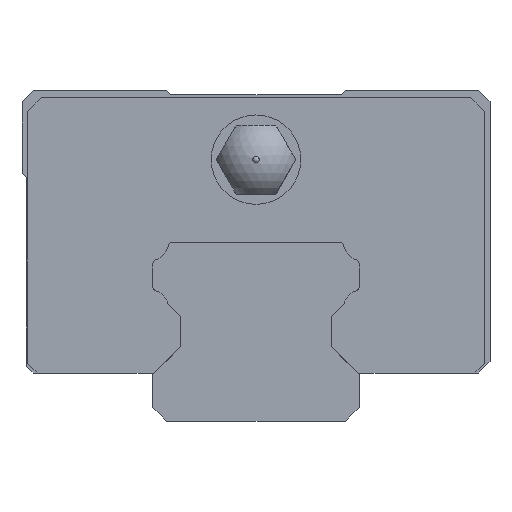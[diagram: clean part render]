
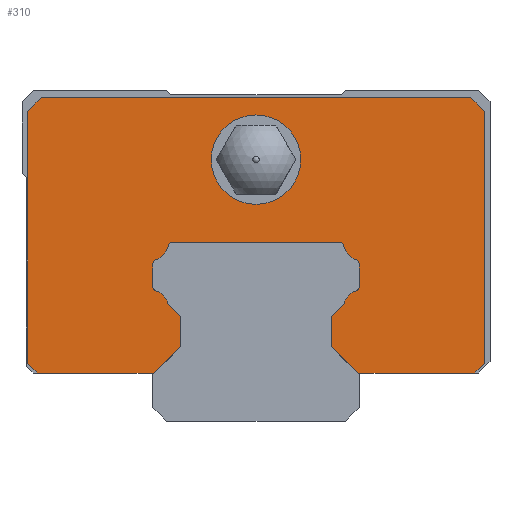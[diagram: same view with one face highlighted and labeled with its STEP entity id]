
A CAD part, front view. The second image highlights one B-rep face of the part: STEP entity #310.
In plain terms, the highlighted planar face has unit normal (0, -1, 0).
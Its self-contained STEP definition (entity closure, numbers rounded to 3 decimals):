
#310=ADVANCED_FACE('',(#613,#614),#615,.T.);
#613=FACE_OUTER_BOUND('',#924,.T.);
#614=FACE_BOUND('',#925,.T.);
#615=PLANE('',#926);
#924=EDGE_LOOP('',(#2049,#2050,#2051,#2052,#2053,#2054,#2055,#2056,#2057,#2058,#2059,#2060,#2061,#2062,#2063,#2064,#2065,#2066,#2067,#2068,#2069,#2070,#2071,#2072,#2073,#2074,#2075,#2076));
#925=EDGE_LOOP('',(#2077,#2078,#2079));
#926=AXIS2_PLACEMENT_3D('',#2080,#2081,#2082);
#2049=ORIENTED_EDGE('',*,*,#2391,.F.);
#2050=ORIENTED_EDGE('',*,*,#2492,.F.);
#2051=ORIENTED_EDGE('',*,*,#2413,.F.);
#2052=ORIENTED_EDGE('',*,*,#2491,.F.);
#2053=ORIENTED_EDGE('',*,*,#2472,.F.);
#2054=ORIENTED_EDGE('',*,*,#2482,.F.);
#2055=ORIENTED_EDGE('',*,*,#2489,.F.);
#2056=ORIENTED_EDGE('',*,*,#2424,.F.);
#2057=ORIENTED_EDGE('',*,*,#2485,.F.);
#2058=ORIENTED_EDGE('',*,*,#2468,.F.);
#2059=ORIENTED_EDGE('',*,*,#2490,.F.);
#2060=ORIENTED_EDGE('',*,*,#2466,.F.);
#2061=ORIENTED_EDGE('',*,*,#2394,.F.);
#2062=ORIENTED_EDGE('',*,*,#2463,.F.);
#2063=ORIENTED_EDGE('',*,*,#2475,.F.);
#2064=ORIENTED_EDGE('',*,*,#2493,.F.);
#2065=ORIENTED_EDGE('',*,*,#2402,.F.);
#2066=ORIENTED_EDGE('',*,*,#2471,.F.);
#2067=ORIENTED_EDGE('',*,*,#2441,.F.);
#2068=ORIENTED_EDGE('',*,*,#2484,.T.);
#2069=ORIENTED_EDGE('',*,*,#2356,.T.);
#2070=ORIENTED_EDGE('',*,*,#2494,.T.);
#2071=ORIENTED_EDGE('',*,*,#2487,.T.);
#2072=ORIENTED_EDGE('',*,*,#2478,.T.);
#2073=ORIENTED_EDGE('',*,*,#2419,.T.);
#2074=ORIENTED_EDGE('',*,*,#2495,.T.);
#2075=ORIENTED_EDGE('',*,*,#2422,.T.);
#2076=ORIENTED_EDGE('',*,*,#2353,.T.);
#2077=ORIENTED_EDGE('',*,*,#2381,.F.);
#2078=ORIENTED_EDGE('',*,*,#2380,.F.);
#2079=ORIENTED_EDGE('',*,*,#2294,.F.);
#2080=CARTESIAN_POINT('',(0.0,-7.5,19.));
#2081=DIRECTION('',(0.0,-1.0,0.0));
#2082=DIRECTION('',(0.0,0.0,-1.0));
#2294=EDGE_CURVE('',#2792,#2795,#2796,.T.);
#2353=EDGE_CURVE('',#2892,#2902,#2904,.T.);
#2356=EDGE_CURVE('',#2910,#2908,#2911,.T.);
#2380=EDGE_CURVE('',#2795,#2943,#2944,.T.);
#2381=EDGE_CURVE('',#2943,#2792,#2945,.T.);
#2391=EDGE_CURVE('',#2959,#2902,#2960,.T.);
#2394=EDGE_CURVE('',#2964,#2965,#2966,.T.);
#2402=EDGE_CURVE('',#2978,#2979,#2980,.T.);
#2413=EDGE_CURVE('',#2995,#2996,#2997,.T.);
#2419=EDGE_CURVE('',#3008,#3006,#3009,.T.);
#2422=EDGE_CURVE('',#3013,#2892,#3014,.T.);
#2424=EDGE_CURVE('',#3016,#3017,#3018,.T.);
#2441=EDGE_CURVE('',#3042,#3043,#3044,.T.);
#2463=EDGE_CURVE('',#3077,#2964,#3078,.T.);
#2466=EDGE_CURVE('',#2965,#3081,#3082,.T.);
#2468=EDGE_CURVE('',#3084,#3085,#3086,.T.);
#2471=EDGE_CURVE('',#3043,#2978,#3089,.T.);
#2472=EDGE_CURVE('',#3090,#3091,#3092,.T.);
#2475=EDGE_CURVE('',#3095,#3077,#3096,.T.);
#2478=EDGE_CURVE('',#3099,#3008,#3100,.T.);
#2482=EDGE_CURVE('',#3104,#3090,#3105,.T.);
#2484=EDGE_CURVE('',#3042,#2910,#3107,.T.);
#2485=EDGE_CURVE('',#3085,#3016,#3108,.T.);
#2487=EDGE_CURVE('',#3110,#3099,#3111,.T.);
#2489=EDGE_CURVE('',#3017,#3104,#3113,.T.);
#2490=EDGE_CURVE('',#3081,#3084,#3114,.T.);
#2491=EDGE_CURVE('',#3091,#2995,#3115,.T.);
#2492=EDGE_CURVE('',#2996,#2959,#3116,.T.);
#2493=EDGE_CURVE('',#2979,#3095,#3117,.T.);
#2494=EDGE_CURVE('',#2908,#3110,#3118,.T.);
#2495=EDGE_CURVE('',#3006,#3013,#3119,.T.);
#2792=VERTEX_POINT('',#3508);
#2795=VERTEX_POINT('',#3512);
#2796=CIRCLE('',#3513,3.25);
#2892=VERTEX_POINT('',#3646);
#2902=VERTEX_POINT('',#3661);
#2904=LINE('',#3664,#3665);
#2908=VERTEX_POINT('',#3670);
#2910=VERTEX_POINT('',#3673);
#2911=LINE('',#3674,#3675);
#2943=VERTEX_POINT('',#3720);
#2944=CIRCLE('',#3721,3.25);
#2945=CIRCLE('',#3722,3.25);
#2959=VERTEX_POINT('',#3744);
#2960=LINE('',#3745,#3746);
#2964=VERTEX_POINT('',#3752);
#2965=VERTEX_POINT('',#3753);
#2966=CIRCLE('',#3754,0.3);
#2978=VERTEX_POINT('',#3772);
#2979=VERTEX_POINT('',#3773);
#2980=LINE('',#3774,#3775);
#2995=VERTEX_POINT('',#3797);
#2996=VERTEX_POINT('',#3798);
#2997=LINE('',#3799,#3800);
#3006=VERTEX_POINT('',#3813);
#3008=VERTEX_POINT('',#3816);
#3009=LINE('',#3817,#3818);
#3013=VERTEX_POINT('',#3824);
#3014=LINE('',#3825,#3826);
#3016=VERTEX_POINT('',#3829);
#3017=VERTEX_POINT('',#3830);
#3018=CIRCLE('',#3831,1.4);
#3042=VERTEX_POINT('',#3870);
#3043=VERTEX_POINT('',#3871);
#3044=LINE('',#3872,#3873);
#3077=VERTEX_POINT('',#3918);
#3078=LINE('',#3919,#3920);
#3081=VERTEX_POINT('',#3925);
#3082=CIRCLE('',#3926,1.4);
#3084=VERTEX_POINT('',#3929);
#3085=VERTEX_POINT('',#3930);
#3086=LINE('',#3931,#3932);
#3089=LINE('',#3937,#3938);
#3090=VERTEX_POINT('',#3939);
#3091=VERTEX_POINT('',#3940);
#3092=CIRCLE('',#3941,0.3);
#3095=VERTEX_POINT('',#3946);
#3096=CIRCLE('',#3947,0.3);
#3099=VERTEX_POINT('',#3951);
#3100=LINE('',#3952,#3953);
#3104=VERTEX_POINT('',#3960);
#3105=LINE('',#3961,#3962);
#3107=LINE('',#3965,#3966);
#3108=CIRCLE('',#3967,0.3);
#3110=VERTEX_POINT('',#3969);
#3111=LINE('',#3970,#3971);
#3113=CIRCLE('',#3974,0.3);
#3114=CIRCLE('',#3975,0.3);
#3115=CIRCLE('',#3976,1.4);
#3116=LINE('',#3977,#3978);
#3117=CIRCLE('',#3979,1.4);
#3118=LINE('',#3980,#3981);
#3119=LINE('',#3982,#3983);
#3508=CARTESIAN_POINT('',(0.,-7.5,22.25));
#3512=CARTESIAN_POINT('',(0.,-7.5,15.75));
#3513=AXIS2_PLACEMENT_3D('',#4314,#4315,#4316);
#3646=CARTESIAN_POINT('',(-15.9,-7.5,3.5));
#3661=CARTESIAN_POINT('',(-7.4,-7.5,3.5));
#3664=CARTESIAN_POINT('',(-15.9,-7.5,3.5));
#3665=VECTOR('',#4405,1000.0);
#3670=CARTESIAN_POINT('',(16.6,-7.5,4.2));
#3673=CARTESIAN_POINT('',(15.9,-7.5,3.5));
#3674=CARTESIAN_POINT('',(15.9,-7.5,3.5));
#3675=VECTOR('',#4408,1000.0);
#3720=CARTESIAN_POINT('',(3.25,-7.5,19.));
#3721=AXIS2_PLACEMENT_3D('',#4452,#4453,#4454);
#3722=AXIS2_PLACEMENT_3D('',#4455,#4456,#4457);
#3744=CARTESIAN_POINT('',(-5.5,-7.5,5.4));
#3745=CARTESIAN_POINT('',(4.05,-7.5,14.95));
#3746=VECTOR('',#4472,1000.0);
#3752=CARTESIAN_POINT('',(7.5,-7.5,11.428));
#3753=CARTESIAN_POINT('',(7.295,-7.5,11.712));
#3754=AXIS2_PLACEMENT_3D('',#4475,#4476,#4477);
#3772=CARTESIAN_POINT('',(5.5,-7.5,7.6));
#3773=CARTESIAN_POINT('',(6.376,-7.5,8.476));
#3774=CARTESIAN_POINT('',(8.45,-7.5,10.55));
#3775=VECTOR('',#4487,1000.0);
#3797=CARTESIAN_POINT('',(-6.376,-7.5,8.476));
#3798=CARTESIAN_POINT('',(-5.5,-7.5,7.6));
#3799=CARTESIAN_POINT('',(-8.45,-7.5,10.55));
#3800=VECTOR('',#4504,1000.0);
#3813=CARTESIAN_POINT('',(-16.6,-7.5,22.5));
#3816=CARTESIAN_POINT('',(-15.6,-7.5,23.5));
#3817=CARTESIAN_POINT('',(-15.6,-7.5,23.5));
#3818=VECTOR('',#4510,1000.0);
#3824=CARTESIAN_POINT('',(-16.6,-7.5,4.2));
#3825=CARTESIAN_POINT('',(-16.6,-7.5,4.2));
#3826=VECTOR('',#4513,1000.0);
#3829=CARTESIAN_POINT('',(-6.368,-7.5,12.76));
#3830=CARTESIAN_POINT('',(-7.295,-7.5,11.712));
#3831=AXIS2_PLACEMENT_3D('',#4515,#4516,#4517);
#3870=CARTESIAN_POINT('',(7.4,-7.5,3.5));
#3871=CARTESIAN_POINT('',(5.5,-7.5,5.4));
#3872=CARTESIAN_POINT('',(-4.05,-7.5,14.95));
#3873=VECTOR('',#4536,1000.0);
#3918=CARTESIAN_POINT('',(7.5,-7.5,9.772));
#3919=CARTESIAN_POINT('',(7.5,-7.5,19.));
#3920=VECTOR('',#4576,1000.0);
#3925=CARTESIAN_POINT('',(6.368,-7.5,12.76));
#3926=AXIS2_PLACEMENT_3D('',#4579,#4580,#4581);
#3929=CARTESIAN_POINT('',(6.074,-7.5,13.));
#3930=CARTESIAN_POINT('',(-6.074,-7.5,13.0));
#3931=CARTESIAN_POINT('',(0.0,-7.5,13.0));
#3932=VECTOR('',#4583,1000.0);
#3937=CARTESIAN_POINT('',(5.5,-7.5,19.));
#3938=VECTOR('',#4586,1000.0);
#3939=CARTESIAN_POINT('',(-7.5,-7.5,9.772));
#3940=CARTESIAN_POINT('',(-7.295,-7.5,9.488));
#3941=AXIS2_PLACEMENT_3D('',#4587,#4588,#4589);
#3946=CARTESIAN_POINT('',(7.295,-7.5,9.488));
#3947=AXIS2_PLACEMENT_3D('',#4592,#4593,#4594);
#3951=CARTESIAN_POINT('',(15.6,-7.5,23.5));
#3952=CARTESIAN_POINT('',(15.6,-7.5,23.5));
#3953=VECTOR('',#4599,1000.0);
#3960=CARTESIAN_POINT('',(-7.5,-7.5,11.428));
#3961=CARTESIAN_POINT('',(-7.5,-7.5,19.));
#3962=VECTOR('',#4603,1000.0);
#3965=CARTESIAN_POINT('',(-15.9,-7.5,3.5));
#3966=VECTOR('',#4605,1000.0);
#3967=AXIS2_PLACEMENT_3D('',#4606,#4607,#4608);
#3969=CARTESIAN_POINT('',(16.6,-7.5,22.5));
#3970=CARTESIAN_POINT('',(16.6,-7.5,22.5));
#3971=VECTOR('',#4612,1000.0);
#3974=AXIS2_PLACEMENT_3D('',#4614,#4615,#4616);
#3975=AXIS2_PLACEMENT_3D('',#4617,#4618,#4619);
#3976=AXIS2_PLACEMENT_3D('',#4620,#4621,#4622);
#3977=CARTESIAN_POINT('',(-5.5,-7.5,19.));
#3978=VECTOR('',#4623,1000.0);
#3979=AXIS2_PLACEMENT_3D('',#4624,#4625,#4626);
#3980=CARTESIAN_POINT('',(16.6,-7.5,4.2));
#3981=VECTOR('',#4627,1000.0);
#3982=CARTESIAN_POINT('',(-16.6,-7.5,22.5));
#3983=VECTOR('',#4628,1000.0);
#4314=CARTESIAN_POINT('',(0.0,-7.5,19.));
#4315=DIRECTION('',(0.0,-1.0,0.0));
#4316=DIRECTION('',(1.0,0.0,0.0));
#4405=DIRECTION('',(1.0,0.0,0.));
#4408=DIRECTION('',(0.707,0.0,0.707));
#4452=CARTESIAN_POINT('',(0.0,-7.5,19.));
#4453=DIRECTION('',(0.0,-1.0,0.0));
#4454=DIRECTION('',(1.0,0.0,0.0));
#4455=CARTESIAN_POINT('',(0.0,-7.5,19.));
#4456=DIRECTION('',(0.0,-1.0,0.0));
#4457=DIRECTION('',(1.0,0.0,0.0));
#4472=DIRECTION('',(-0.707,0.0,-0.707));
#4475=CARTESIAN_POINT('',(7.2,-7.5,11.428));
#4476=DIRECTION('',(0.0,-1.0,0.0));
#4477=DIRECTION('',(0.0,0.0,-1.0));
#4487=DIRECTION('',(0.707,0.0,0.707));
#4504=DIRECTION('',(0.707,0.0,-0.707));
#4510=DIRECTION('',(-0.707,0.0,-0.707));
#4513=DIRECTION('',(0.707,0.0,-0.707));
#4515=CARTESIAN_POINT('',(-7.74,-7.5,13.04));
#4516=DIRECTION('',(0.0,1.0,0.0));
#4517=DIRECTION('',(0.0,0.0,-1.0));
#4536=DIRECTION('',(-0.707,0.0,0.707));
#4576=DIRECTION('',(0.0,0.0,1.0));
#4579=CARTESIAN_POINT('',(7.74,-7.5,13.04));
#4580=DIRECTION('',(0.0,1.0,0.0));
#4581=DIRECTION('',(0.0,0.0,-1.0));
#4583=DIRECTION('',(-1.0,0.0,0.0));
#4586=DIRECTION('',(0.0,0.0,1.0));
#4587=CARTESIAN_POINT('',(-7.2,-7.5,9.772));
#4588=DIRECTION('',(0.0,-1.0,0.0));
#4589=DIRECTION('',(0.0,0.0,-1.0));
#4592=CARTESIAN_POINT('',(7.2,-7.5,9.772));
#4593=DIRECTION('',(0.0,-1.0,0.0));
#4594=DIRECTION('',(0.0,0.0,-1.0));
#4599=DIRECTION('',(-1.0,0.0,0.0));
#4603=DIRECTION('',(0.0,0.0,-1.0));
#4605=DIRECTION('',(1.0,0.0,0.));
#4606=CARTESIAN_POINT('',(-6.074,-7.5,12.7));
#4607=DIRECTION('',(0.0,-1.0,0.0));
#4608=DIRECTION('',(0.0,0.0,-1.0));
#4612=DIRECTION('',(-0.707,0.0,0.707));
#4614=CARTESIAN_POINT('',(-7.2,-7.5,11.428));
#4615=DIRECTION('',(0.0,-1.0,0.0));
#4616=DIRECTION('',(0.0,0.0,-1.0));
#4617=CARTESIAN_POINT('',(6.074,-7.5,12.7));
#4618=DIRECTION('',(0.0,-1.0,0.0));
#4619=DIRECTION('',(0.0,0.0,-1.0));
#4620=CARTESIAN_POINT('',(-7.74,-7.5,8.16));
#4621=DIRECTION('',(0.0,1.0,0.0));
#4622=DIRECTION('',(0.0,0.0,-1.0));
#4623=DIRECTION('',(0.0,0.0,-1.0));
#4624=CARTESIAN_POINT('',(7.74,-7.5,8.16));
#4625=DIRECTION('',(0.0,1.0,0.0));
#4626=DIRECTION('',(0.0,0.0,-1.0));
#4627=DIRECTION('',(0.0,0.0,1.0));
#4628=DIRECTION('',(0.0,0.0,-1.0));
